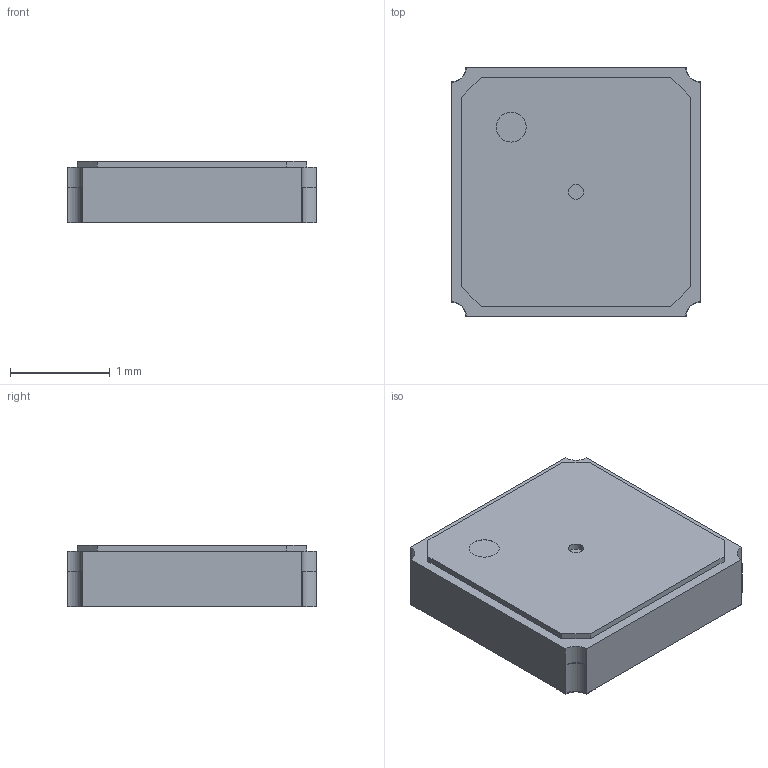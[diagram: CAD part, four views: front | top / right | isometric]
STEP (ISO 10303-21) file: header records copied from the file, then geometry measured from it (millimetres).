
FILE_DESCRIPTION (( 'STEP AP214' ), '1' );
FILE_NAME ('HSPPAR003.STEP', '2010-12-09T04:03:53', ( 'アルプス電気㈱' ), ( '' ), 'SwSTEP 2.0', 'SolidWorks 2007', '' );
FILE_SCHEMA (( 'AUTOMOTIVE_DESIGN' ));
Length unit declared in the file: millimetre
Products named in the file (1): HSPPAR003
Bounding box: 2.5 x 2.5 x 0.61 mm (x, y, z)
Volume: 3.7 mm3; surface area: 31.7 mm2
Topology: 6 solids, 6 shells, 79 faces, 198 edges, 132 vertices
Faces by surface type: plane 55, cylinder 24
Entity records: 3301 total; most frequent: CARTESIAN_POINT 410, DIRECTION 406, ORIENTED_EDGE 396, EDGE_CURVE 198, VECTOR 150, LINE 150, VERTEX_POINT 132, AXIS2_PLACEMENT_3D 128
